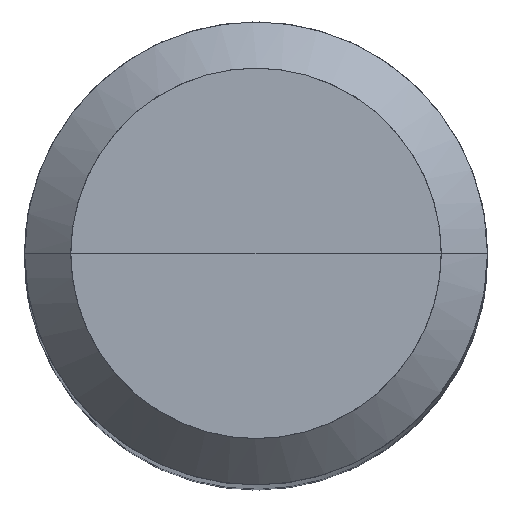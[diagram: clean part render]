
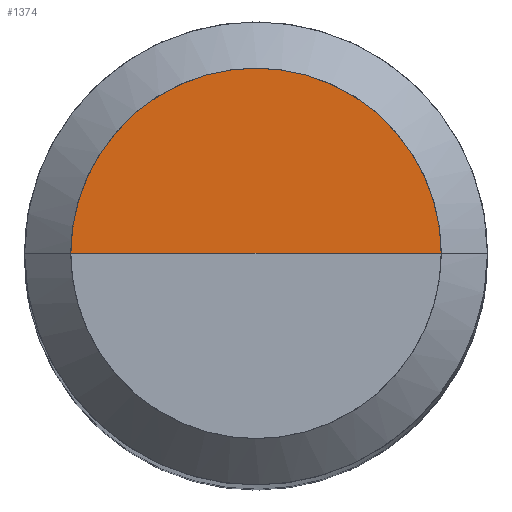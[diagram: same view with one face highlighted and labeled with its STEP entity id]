
A CAD part, top view. The second image highlights one B-rep face of the part: STEP entity #1374.
In plain terms, the highlighted free-form (B-spline) face has degree [1, 2] with [2, 5] control points.
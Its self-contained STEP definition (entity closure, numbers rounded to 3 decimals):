
#1135=CARTESIAN_POINT('',(4.0,0.0,49.0));
#1136=CARTESIAN_POINT('',(4.0,4.0,49.0));
#1137=CARTESIAN_POINT('',(0.0,4.0,49.0));
#1138=CARTESIAN_POINT('',(-4.0,4.0,49.0));
#1139=CARTESIAN_POINT('',(-4.0,0.0,49.0));
#1140=CARTESIAN_POINT('',(0.0,0.0,49.0));
#1359=(
BOUNDED_SURFACE()
B_SPLINE_SURFACE(1,2,(
(#1135,#1136,#1137,#1138,#1139),
(#1140,#1140,#1140,#1140,#1140)
), .UNSPECIFIED.,.F.,.F.,.F.)
B_SPLINE_SURFACE_WITH_KNOTS((2,2),(3,2,3),(
0.0,1.0),(
0.0,0.5,1.0), .UNSPECIFIED.)
GEOMETRIC_REPRESENTATION_ITEM()
RATIONAL_B_SPLINE_SURFACE(((1.0,0.707,1.0,0.707,1.0),
(1.0,0.707,1.0,0.707,1.0)
))
REPRESENTATION_ITEM('')
SURFACE()
);
#1360=(
BOUNDED_CURVE()
B_SPLINE_CURVE(2,(#1139,#1138,#1137,#1136,#1135),.UNSPECIFIED.,.F.,.F.)
B_SPLINE_CURVE_WITH_KNOTS((3,2,3),
(0.0,0.5,1.0),.UNSPECIFIED.)
CURVE()
GEOMETRIC_REPRESENTATION_ITEM()
RATIONAL_B_SPLINE_CURVE((1.0,0.707,1.0,0.707,1.0))
REPRESENTATION_ITEM('')
);
#1361=(
BOUNDED_CURVE()
B_SPLINE_CURVE(1,(#1135,#1140),.UNSPECIFIED.,.F.,.F.)
B_SPLINE_CURVE_WITH_KNOTS((2,2),
(0.0,1.0),.UNSPECIFIED.)
CURVE()
GEOMETRIC_REPRESENTATION_ITEM()
RATIONAL_B_SPLINE_CURVE((1.0,1.0))
REPRESENTATION_ITEM('')
);
#1362=(
BOUNDED_CURVE()
B_SPLINE_CURVE(1,(#1140,#1139),.UNSPECIFIED.,.F.,.F.)
B_SPLINE_CURVE_WITH_KNOTS((2,2),
(0.0,1.0),.UNSPECIFIED.)
CURVE()
GEOMETRIC_REPRESENTATION_ITEM()
RATIONAL_B_SPLINE_CURVE((1.0,1.0))
REPRESENTATION_ITEM('')
);
#1363=VERTEX_POINT('',#1135);
#1364=VERTEX_POINT('',#1139);
#1365=VERTEX_POINT('',#1140);
#1366=EDGE_CURVE('',#1364,#1363,#1360,.T.);
#1367=EDGE_CURVE('',#1363,#1365,#1361,.T.);
#1368=EDGE_CURVE('',#1365,#1364,#1362,.T.);
#1369=ORIENTED_EDGE('',*,*,#1366,.T.);
#1370=ORIENTED_EDGE('',*,*,#1367,.T.);
#1371=ORIENTED_EDGE('',*,*,#1368,.T.);
#1372=EDGE_LOOP('',(#1369,#1370,#1371));
#1373=FACE_OUTER_BOUND('',#1372,.T.);
#1374=ADVANCED_FACE('',(#1373),#1359,.T.);
